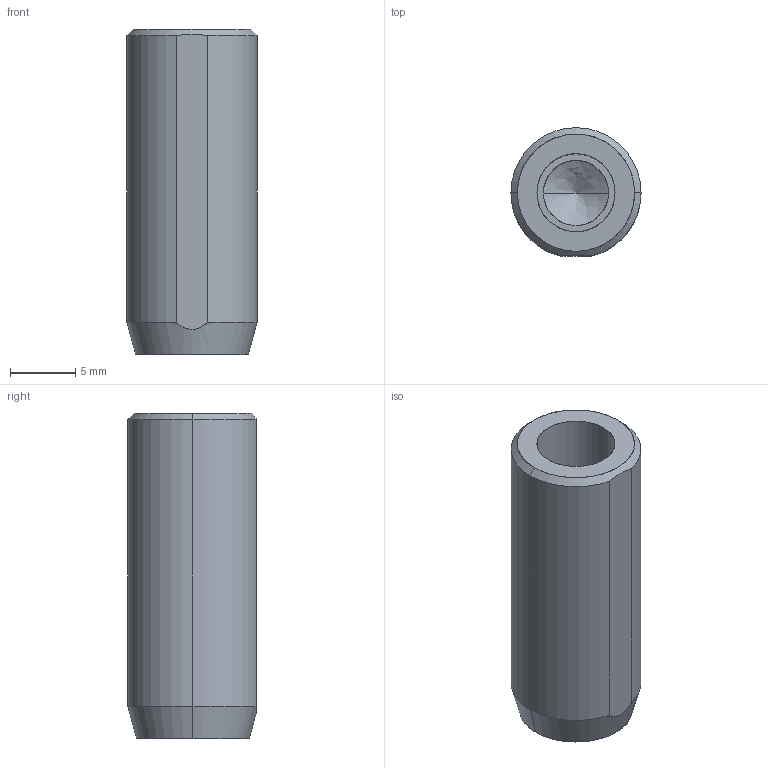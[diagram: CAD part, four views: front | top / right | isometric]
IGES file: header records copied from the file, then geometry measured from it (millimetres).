
Global section: file name: E:\UnigraphicsGraphicData\MISUMI_PRESS-PARTS\IGES\3d_mstm10-25_00433_r00.igs; native system: NX V5.0; preprocessor: UGS NX IGES V5.0; author: MISUMI; date: 20110105.161520; units: millimetre
Bounding box: 10 x 9.85 x 25 mm (x, y, z)
Surface area: 1148.9 mm2 (no closed solid volume)
Topology: 0 solids, 0 shells, 17 faces, 100 edges, 98 vertices
Faces by surface type: bspline 17
